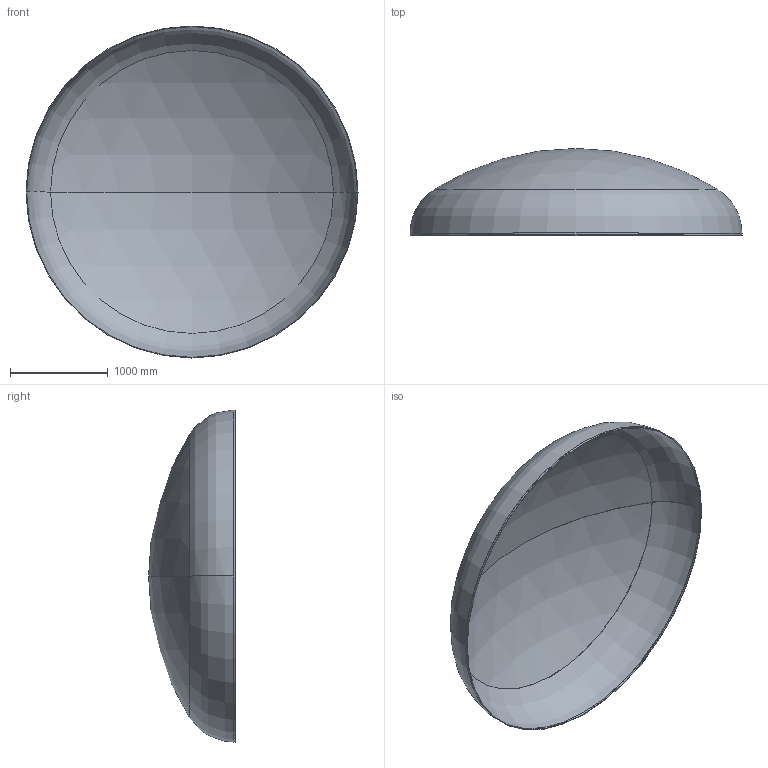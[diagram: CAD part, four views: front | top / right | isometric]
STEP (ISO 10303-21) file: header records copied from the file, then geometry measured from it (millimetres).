
FILE_DESCRIPTION (( 'STEP AP203' ), '1' );
FILE_NAME ('DIN 28013 Korbbogenform_-_Boden DIN 28013 - 3400 x 20 - I - s=6.step', '2016-07-01T19:07:16', ( '' ), ( '' ), 'SwSTEP 2.0', 'SolidWorks 2013', '' );
FILE_SCHEMA (( 'CONFIG_CONTROL_DESIGN' ));
Length unit declared in the file: millimetre
Products named in the file (1): DIN 28013 Korbbogenform_-_Boden DIN 28013 - 3400 x 20 - I - s=6
Bounding box: 3400 x 888.19 x 3400 mm (x, y, z)
Volume: 76597417.2 mm3; surface area: 25596512.6 mm2
Topology: 1 solids, 1 shells, 13 faces, 24 edges, 14 vertices
Faces by surface type: torus 4, cylinder 4, sphere 4, plane 1
Entity records: 407 total; most frequent: DIRECTION 72, CARTESIAN_POINT 52, ORIENTED_EDGE 48, AXIS2_PLACEMENT_3D 34, EDGE_CURVE 24, CIRCLE 20, VERTEX_POINT 14, EDGE_LOOP 14
